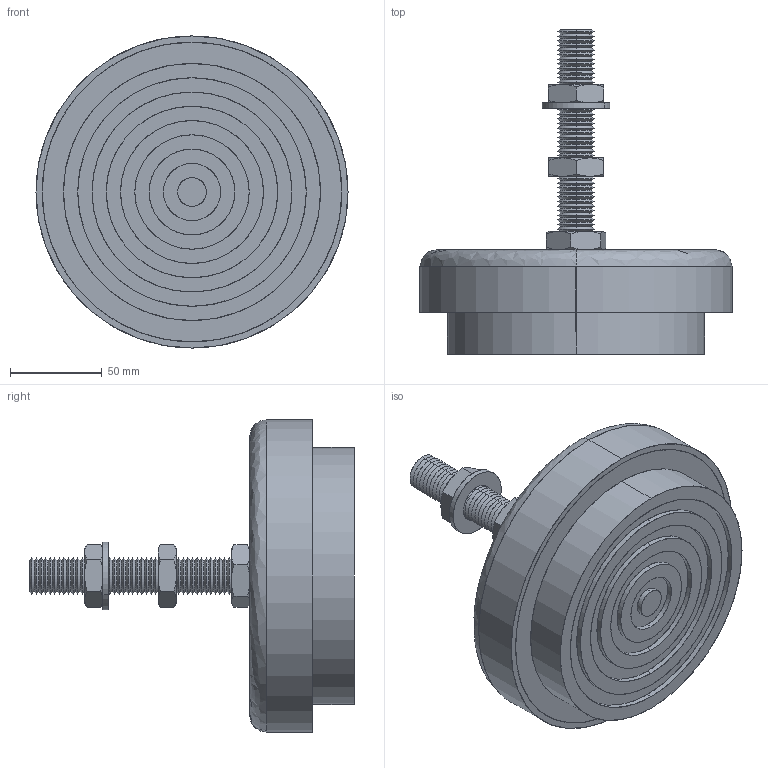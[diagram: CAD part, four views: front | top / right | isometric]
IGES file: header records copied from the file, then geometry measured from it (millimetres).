
Start section: SolidWorks IGES file using analytic representation for surfaces
Global section: file name: C:\Documents and Settings\IANO\Desktop\Temp File\Process pending\EXISTING\34940_v2\34940_v2_20170627_IGES\34940.W0170.igs; native system: SolidWorks 2009; preprocessor: SolidWorks 2009; author: IANO; date: 170626.132523; units: millimetre
Bounding box: 170 x 177 x 170 mm (x, y, z)
Surface area: 221428.8 mm2 (no closed solid volume)
Topology: 0 solids, 0 shells, 371 faces, 4736 edges, 4736 vertices
Faces by surface type: revolution 316, bspline 55
